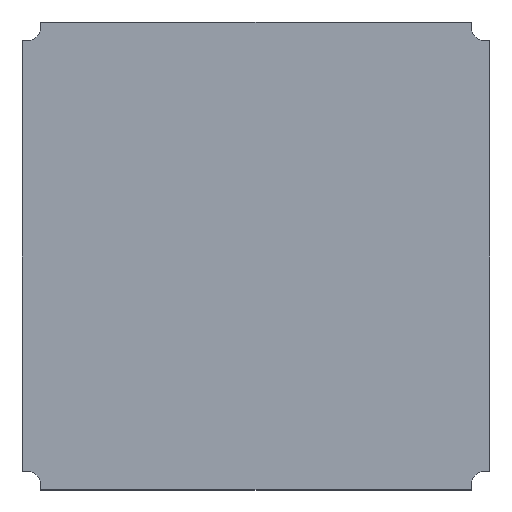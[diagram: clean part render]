
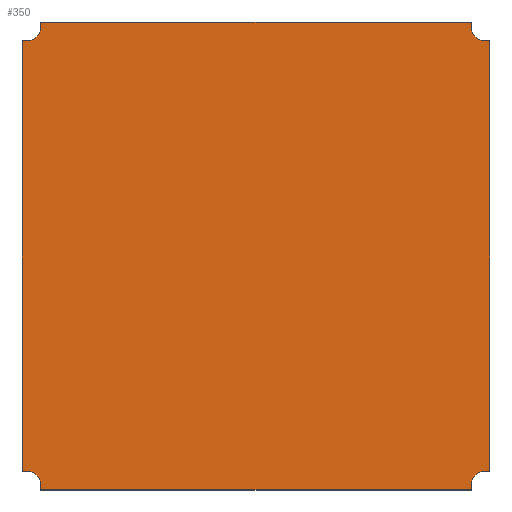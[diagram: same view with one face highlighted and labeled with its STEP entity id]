
A CAD part, top view. The second image highlights one B-rep face of the part: STEP entity #350.
In plain terms, the highlighted planar face has unit normal (0, 0, 1).
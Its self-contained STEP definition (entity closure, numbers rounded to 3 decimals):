
#28=PLANE('',#390);
#46=FACE_OUTER_BOUND('',#64,.T.);
#64=EDGE_LOOP('',(#313,#314,#315,#316,#317,#318,#319,#320,#321,#322,#323,
#324,#325,#326,#327,#328));
#67=LINE('',#497,#107);
#70=LINE('',#503,#110);
#73=LINE('',#509,#113);
#77=LINE('',#521,#117);
#80=LINE('',#527,#120);
#83=LINE('',#533,#123);
#87=LINE('',#545,#127);
#90=LINE('',#551,#130);
#93=LINE('',#557,#133);
#97=LINE('',#569,#137);
#100=LINE('',#575,#140);
#103=LINE('',#580,#143);
#107=VECTOR('',#403,10.);
#110=VECTOR('',#408,10.);
#113=VECTOR('',#413,10.);
#117=VECTOR('',#425,10.);
#120=VECTOR('',#430,10.);
#123=VECTOR('',#435,10.);
#127=VECTOR('',#447,10.);
#130=VECTOR('',#452,10.);
#133=VECTOR('',#457,10.);
#137=VECTOR('',#469,10.);
#140=VECTOR('',#474,10.);
#143=VECTOR('',#479,10.);
#145=CIRCLE('',#366,8.);
#147=CIRCLE('',#372,8.);
#149=CIRCLE('',#378,8.);
#151=CIRCLE('',#384,8.);
#153=VERTEX_POINT('',#487);
#154=VERTEX_POINT('',#488);
#157=VERTEX_POINT('',#496);
#159=VERTEX_POINT('',#502);
#161=VERTEX_POINT('',#508);
#163=VERTEX_POINT('',#514);
#165=VERTEX_POINT('',#520);
#167=VERTEX_POINT('',#526);
#169=VERTEX_POINT('',#532);
#171=VERTEX_POINT('',#538);
#173=VERTEX_POINT('',#544);
#175=VERTEX_POINT('',#550);
#177=VERTEX_POINT('',#556);
#179=VERTEX_POINT('',#562);
#181=VERTEX_POINT('',#568);
#183=VERTEX_POINT('',#574);
#185=EDGE_CURVE('',#153,#154,#145,.T.);
#189=EDGE_CURVE('',#157,#153,#67,.T.);
#192=EDGE_CURVE('',#159,#157,#70,.T.);
#195=EDGE_CURVE('',#161,#159,#73,.T.);
#198=EDGE_CURVE('',#163,#161,#147,.T.);
#201=EDGE_CURVE('',#165,#163,#77,.T.);
#204=EDGE_CURVE('',#167,#165,#80,.T.);
#207=EDGE_CURVE('',#169,#167,#83,.T.);
#210=EDGE_CURVE('',#171,#169,#149,.T.);
#213=EDGE_CURVE('',#173,#171,#87,.T.);
#216=EDGE_CURVE('',#175,#173,#90,.T.);
#219=EDGE_CURVE('',#177,#175,#93,.T.);
#222=EDGE_CURVE('',#179,#177,#151,.T.);
#225=EDGE_CURVE('',#181,#179,#97,.T.);
#228=EDGE_CURVE('',#183,#181,#100,.T.);
#231=EDGE_CURVE('',#154,#183,#103,.T.);
#313=ORIENTED_EDGE('',*,*,#231,.F.);
#314=ORIENTED_EDGE('',*,*,#185,.F.);
#315=ORIENTED_EDGE('',*,*,#189,.F.);
#316=ORIENTED_EDGE('',*,*,#192,.F.);
#317=ORIENTED_EDGE('',*,*,#195,.F.);
#318=ORIENTED_EDGE('',*,*,#198,.F.);
#319=ORIENTED_EDGE('',*,*,#201,.F.);
#320=ORIENTED_EDGE('',*,*,#204,.F.);
#321=ORIENTED_EDGE('',*,*,#207,.F.);
#322=ORIENTED_EDGE('',*,*,#210,.F.);
#323=ORIENTED_EDGE('',*,*,#213,.F.);
#324=ORIENTED_EDGE('',*,*,#216,.F.);
#325=ORIENTED_EDGE('',*,*,#219,.F.);
#326=ORIENTED_EDGE('',*,*,#222,.F.);
#327=ORIENTED_EDGE('',*,*,#225,.F.);
#328=ORIENTED_EDGE('',*,*,#228,.F.);
#350=ADVANCED_FACE('',(#46),#28,.F.);
#366=AXIS2_PLACEMENT_3D('',#489,#395,#396);
#372=AXIS2_PLACEMENT_3D('',#515,#418,#419);
#378=AXIS2_PLACEMENT_3D('',#539,#440,#441);
#384=AXIS2_PLACEMENT_3D('',#563,#462,#463);
#390=AXIS2_PLACEMENT_3D('',#583,#483,#484);
#395=DIRECTION('center_axis',(0.,0.,1.));
#396=DIRECTION('ref_axis',(1.,0.,0.));
#403=DIRECTION('',(0.,1.,0.));
#408=DIRECTION('',(-1.,0.,0.));
#413=DIRECTION('',(0.,-1.,0.));
#418=DIRECTION('center_axis',(0.,0.,1.));
#419=DIRECTION('ref_axis',(0.,1.,0.));
#425=DIRECTION('',(-1.,0.,0.));
#430=DIRECTION('',(0.,-1.,0.));
#435=DIRECTION('',(1.,0.,0.));
#440=DIRECTION('center_axis',(0.,0.,1.));
#441=DIRECTION('ref_axis',(-1.,0.,0.));
#447=DIRECTION('',(0.,-1.,0.));
#452=DIRECTION('',(1.,0.,0.));
#457=DIRECTION('',(0.,1.,0.));
#462=DIRECTION('center_axis',(0.,0.,1.));
#463=DIRECTION('ref_axis',(0.,-1.,0.));
#469=DIRECTION('',(1.,0.,0.));
#474=DIRECTION('',(0.,1.,0.));
#479=DIRECTION('',(-1.,0.,0.));
#483=DIRECTION('center_axis',(0.,0.,-1.));
#484=DIRECTION('ref_axis',(-1.,0.,0.));
#487=CARTESIAN_POINT('',(-283.5,-291.5,1.));
#488=CARTESIAN_POINT('',(-291.5,-283.5,1.));
#489=CARTESIAN_POINT('Origin',(-291.5,-291.5,1.));
#496=CARTESIAN_POINT('',(-283.5,-295.,1.));
#497=CARTESIAN_POINT('',(-283.5,-220.75,1.));
#502=CARTESIAN_POINT('',(-16.5,-295.,1.));
#503=CARTESIAN_POINT('',(-295.,-295.,1.));
#508=CARTESIAN_POINT('',(-16.5,-291.5,1.));
#509=CARTESIAN_POINT('',(-16.5,-222.5,1.));
#514=CARTESIAN_POINT('',(-8.5,-283.5,1.));
#515=CARTESIAN_POINT('Origin',(-8.5,-291.5,1.));
#520=CARTESIAN_POINT('',(-5.,-283.5,1.));
#521=CARTESIAN_POINT('',(-79.25,-283.5,1.));
#526=CARTESIAN_POINT('',(-5.,-16.5,1.));
#527=CARTESIAN_POINT('',(-5.,-295.,1.));
#532=CARTESIAN_POINT('',(-8.5,-16.5,1.));
#533=CARTESIAN_POINT('',(-77.5,-16.5,1.));
#538=CARTESIAN_POINT('',(-16.5,-8.5,1.));
#539=CARTESIAN_POINT('Origin',(-8.5,-8.5,1.));
#544=CARTESIAN_POINT('',(-16.5,-5.,1.));
#545=CARTESIAN_POINT('',(-16.5,-79.25,1.));
#550=CARTESIAN_POINT('',(-283.5,-5.,1.));
#551=CARTESIAN_POINT('',(-5.,-5.,1.));
#556=CARTESIAN_POINT('',(-283.5,-8.5,1.));
#557=CARTESIAN_POINT('',(-283.5,-77.5,1.));
#562=CARTESIAN_POINT('',(-291.5,-16.5,1.));
#563=CARTESIAN_POINT('Origin',(-291.5,-8.5,1.));
#568=CARTESIAN_POINT('',(-295.,-16.5,1.));
#569=CARTESIAN_POINT('',(-220.75,-16.5,1.));
#574=CARTESIAN_POINT('',(-295.,-283.5,1.));
#575=CARTESIAN_POINT('',(-295.,-5.,1.));
#580=CARTESIAN_POINT('',(-222.5,-283.5,1.));
#583=CARTESIAN_POINT('Origin',(-150.,-150.,1.));
